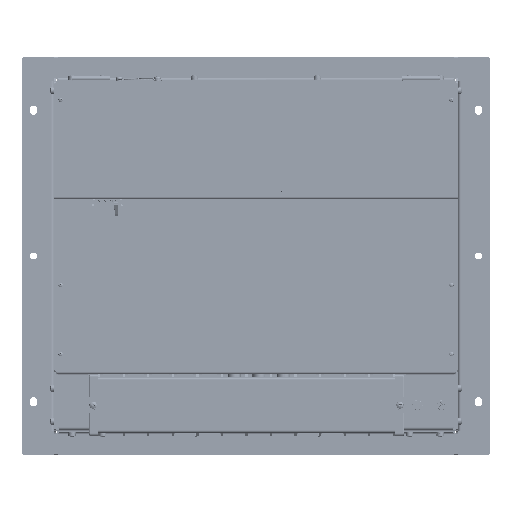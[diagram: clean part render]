
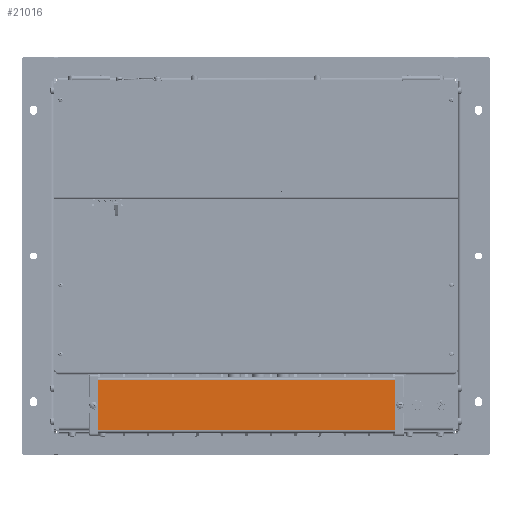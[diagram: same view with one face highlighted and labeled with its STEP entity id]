
A CAD part, top view. The second image highlights one B-rep face of the part: STEP entity #21016.
In plain terms, the highlighted planar face has unit normal (0, 0, 1).
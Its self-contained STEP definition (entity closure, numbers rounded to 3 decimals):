
#4140 = PLANE ( 'NONE',  #396521 ) ;
#21016 = ADVANCED_FACE ( 'NONE', ( #405406 ), #4140, .F. ) ;
#21251 = VERTEX_POINT ( 'NONE', #394896 ) ;
#42663 = EDGE_CURVE ( 'NONE', #129220, #428952, #167193, .T. ) ;
#51464 = VECTOR ( 'NONE', #428816, 1000. ) ;
#57156 = VECTOR ( 'NONE', #295234, 1000. ) ;
#61871 = VECTOR ( 'NONE', #520251, 1000. ) ;
#70665 = LINE ( 'NONE', #226313, #51464 ) ;
#73647 = CARTESIAN_POINT ( 'NONE',  ( 188.476, -164.719, 249.848 ) ) ;
#118306 = EDGE_CURVE ( 'NONE', #21251, #233429, #70665, .T. ) ;
#127125 = CARTESIAN_POINT ( 'NONE',  ( -99.524, -230.819, 249.848 ) ) ;
#127855 = CARTESIAN_POINT ( 'NONE',  ( -99.524, -164.719, 249.848 ) ) ;
#129220 = VERTEX_POINT ( 'NONE', #391520 ) ;
#147442 = VECTOR ( 'NONE', #211462, 1000. ) ;
#167193 = LINE ( 'NONE', #127855, #147442 ) ;
#168877 = DIRECTION ( 'NONE',  ( 0., 0., -1. ) ) ;
#210696 = DIRECTION ( 'NONE',  ( -1., 0., 0. ) ) ;
#211462 = DIRECTION ( 'NONE',  ( 1., 0., 0. ) ) ;
#226313 = CARTESIAN_POINT ( 'NONE',  ( -99.524, -230.819, 249.848 ) ) ;
#233429 = VERTEX_POINT ( 'NONE', #371033 ) ;
#240525 = ORIENTED_EDGE ( 'NONE', *, *, #349227, .F. ) ;
#289837 = CARTESIAN_POINT ( 'NONE',  ( 188.476, -164.719, 249.848 ) ) ;
#295234 = DIRECTION ( 'NONE',  ( 0., -1., 0. ) ) ;
#304226 = LINE ( 'NONE', #289837, #57156 ) ;
#347511 = ORIENTED_EDGE ( 'NONE', *, *, #42663, .F. ) ;
#349227 = EDGE_CURVE ( 'NONE', #428952, #21251, #304226, .T. ) ;
#350084 = EDGE_CURVE ( 'NONE', #129220, #233429, #528190, .T. ) ;
#364187 = ORIENTED_EDGE ( 'NONE', *, *, #350084, .T. ) ;
#371033 = CARTESIAN_POINT ( 'NONE',  ( -198.524, -230.819, 249.848 ) ) ;
#391520 = CARTESIAN_POINT ( 'NONE',  ( -198.524, -164.719, 249.848 ) ) ;
#394896 = CARTESIAN_POINT ( 'NONE',  ( 188.476, -230.819, 249.848 ) ) ;
#396521 = AXIS2_PLACEMENT_3D ( 'NONE', #127125, #168877, #210696 ) ;
#405406 = FACE_OUTER_BOUND ( 'NONE', #518630, .T. ) ;
#428816 = DIRECTION ( 'NONE',  ( -1., 0., 0. ) ) ;
#428952 = VERTEX_POINT ( 'NONE', #73647 ) ;
#437043 = CARTESIAN_POINT ( 'NONE',  ( -198.524, -230.819, 249.848 ) ) ;
#506098 = ORIENTED_EDGE ( 'NONE', *, *, #118306, .F. ) ;
#518630 = EDGE_LOOP ( 'NONE', ( #506098, #240525, #347511, #364187 ) ) ;
#520251 = DIRECTION ( 'NONE',  ( 0., -1., 0. ) ) ;
#528190 = LINE ( 'NONE', #437043, #61871 ) ;
